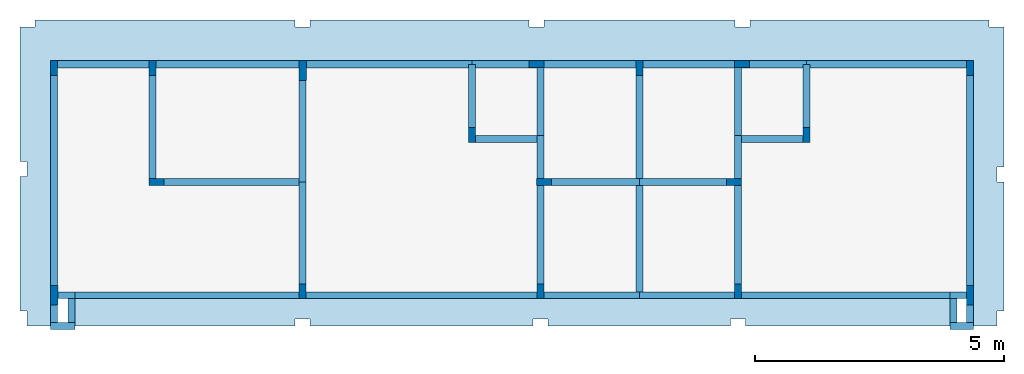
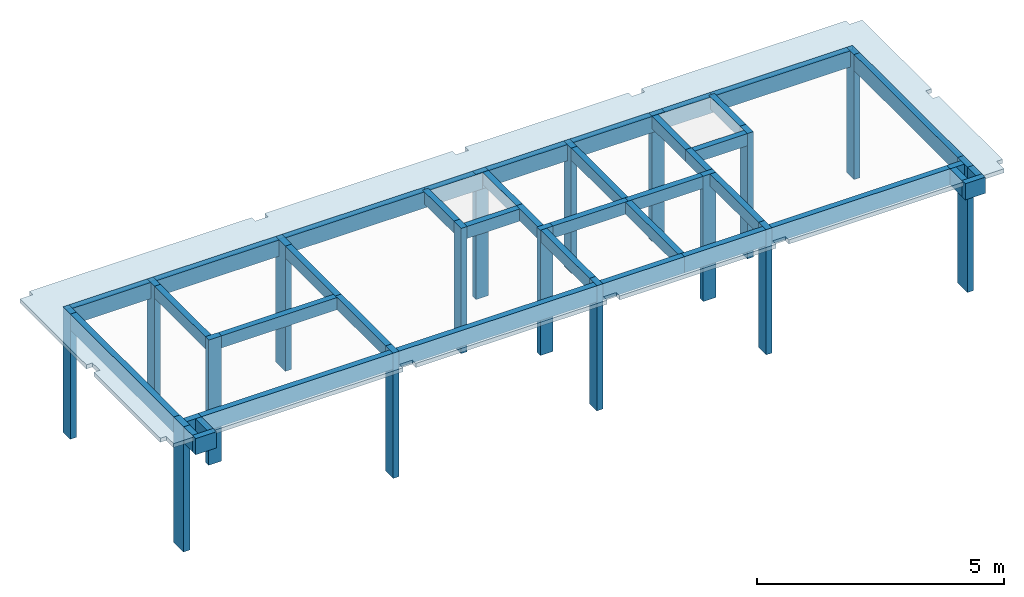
# One storey, part 1 of 4: 41 beams, 17 columns, 2 slabs.
"""IFC4 building model written with IfcOpenShell, lengths in centimetres."""

from ifc_helpers import new_model, si_unit, derived_unit, frame, origin_with_axes, origin_2d_with_axis, place, context, project, spatial, polyline, rectangle, outline, extrude, material, element, save


model = new_model("IFC4")

# Units and contexts
model_context = context("Model", 3, precision=1e-05, world=origin_with_axes(), identifier="Body")
ifc_project = project(units=[si_unit("LENGTHUNIT", "METRE", prefix="CENTI"), si_unit("VOLUMEUNIT", "CUBIC_METRE"), si_unit("AREAUNIT", "SQUARE_METRE"), si_unit("POWERUNIT", "WATT"), si_unit("LUMINOUSFLUXUNIT", "LUMEN"), si_unit("ELECTRICCURRENTUNIT", "AMPERE"), si_unit("PRESSUREUNIT", "PASCAL", prefix="KILO"), si_unit("MASSUNIT", "GRAM", prefix="KILO"), si_unit("PLANEANGLEUNIT", "RADIAN"), derived_unit("VOLUMETRICFLOWRATEUNIT", [(si_unit("LENGTHUNIT", "METRE"), 3), (si_unit("TIMEUNIT", "SECOND"), -1)])], contexts=[model_context])

# Site, building, storey
site_placement = place(None, origin_with_axes())
site = spatial("IfcSite", under=ifc_project, at=site_placement)
building_placement = place(site_placement, frame((0.0, 0.0, 2.0)))
building = spatial("IfcBuilding", under=site, at=building_placement)
placement = place(building_placement, origin_with_axes())
storey_placement = place(placement, frame((0.0, 0.0, 310.0), z_axis=(0.0, 0.0, 1.0), x_axis=(1.0, 0.0, 0.0)))
storey = spatial("IfcBuildingStorey", under=building, at=storey_placement, Name="RESPALDO", CompositionType="ELEMENT", Elevation=312.0)

# Columns
ifc_material = material(Name="Concreto")
column_1_placement = place(storey_placement, frame((8.5, 523.64, 0.0), z_axis=(0.0, 0.0, 1.0), x_axis=(1.0, 0.0, 0.0)))
element("IfcColumn", 1, at=column_1_placement, inside=storey, material=ifc_material, Name="P1", context=model_context, shape_type="SolidModel", body=[
    extrude(rectangle(XDim=14.0, YDim=30.0, at=origin_2d_with_axis()), origin_with_axes(), (0.0, 0.0, -1.0), 310.0),
])
for number, where, z_axis, x_axis, name in (
    (2, (213.55, 295.57, 0.0), (0.0, 0.0, 1.0), (1.0, 0.0, 0.0), "P10"),
    (3, (989.78, 295.58, 0.0), (0.0, 0.0, 1.0), (1.0, 0.0, 0.0), "P11"),
    (4, (1371.38, 295.58, 0.0), (0.0, 0.0, 1.0), (1.0, 0.0, 0.0), "P12"),
):
    element("IfcColumn", number, at=place(storey_placement, frame(where, z_axis=z_axis, x_axis=x_axis)), inside=storey, material=ifc_material, Name=name, context=model_context, shape_type="SolidModel", body=[
        extrude(rectangle(XDim=14.0, YDim=30.0, at=origin_2d_with_axis()), frame((0.0, 0.0, 0.0), z_axis=(0.0, 0.0, 1.0), x_axis=(0.0, -1.0, 0.0)), (0.0, 0.0, -1.0), 310.0),
    ])
column_2_placement = place(storey_placement, frame((8.5, 68.52, 0.0), z_axis=(0.0, 0.0, 1.0), x_axis=(1.0, 0.0, 0.0)))
element("IfcColumn", 5, at=column_2_placement, inside=storey, material=ifc_material, Name="P13", context=model_context, shape_type="SolidModel", body=[
    extrude(rectangle(XDim=15.0, YDim=40.0, at=origin_2d_with_axis()), frame((0.0, 0.0, 0.0), z_axis=(0.0, 0.0, 1.0), x_axis=(-1.0, 0.0, 0.0)), (0.0, 0.0, -1.0), 310.0),
])
column_3_placement = place(storey_placement, frame((506.17, 76.52, 0.0), z_axis=(0.0, 0.0, 1.0), x_axis=(1.0, 0.0, 0.0)))
element("IfcColumn", 6, at=column_3_placement, inside=storey, material=ifc_material, Name="P14", context=model_context, shape_type="SolidModel", body=[
    extrude(rectangle(XDim=14.0, YDim=30.0, at=origin_2d_with_axis()), frame((0.0, 0.0, 0.0), z_axis=(0.0, 0.0, 1.0), x_axis=(-1.0, 0.0, 0.0)), (0.0, 0.0, -1.0), 310.0),
])
column_4_placement = place(storey_placement, frame((983.28, 76.52, 0.0), z_axis=(0.0, 0.0, 1.0), x_axis=(1.0, 0.0, 0.0)))
element("IfcColumn", 7, at=column_4_placement, inside=storey, material=ifc_material, Name="P15", context=model_context, shape_type="SolidModel", body=[
    extrude(rectangle(XDim=14.0, YDim=30.0, at=origin_2d_with_axis()), origin_with_axes(), (0.0, 0.0, -1.0), 310.0),
])
column_5_placement = place(storey_placement, frame((1379.38, 76.52, 0.0), z_axis=(0.0, 0.0, 1.0), x_axis=(1.0, 0.0, 0.0)))
element("IfcColumn", 8, at=column_5_placement, inside=storey, material=ifc_material, Name="P16", context=model_context, shape_type="SolidModel", body=[
    extrude(rectangle(XDim=14.0, YDim=30.0, at=origin_2d_with_axis()), frame((0.0, 0.0, 0.0), z_axis=(0.0, 0.0, 1.0), x_axis=(-1.0, 0.0, 0.0)), (0.0, 0.0, -1.0), 310.0),
])
column_6_placement = place(storey_placement, frame((1843.5, 68.52, 0.0), z_axis=(0.0, 0.0, 1.0), x_axis=(1.0, 0.0, 0.0)))
element("IfcColumn", 9, at=column_6_placement, inside=storey, material=ifc_material, Name="P17", context=model_context, shape_type="SolidModel", body=[
    extrude(rectangle(XDim=14.0, YDim=40.0, at=origin_2d_with_axis()), frame((0.0, 0.0, 0.0), z_axis=(0.0, 0.0, 1.0), x_axis=(-1.0, 0.0, 0.0)), (0.0, 0.0, -1.0), 310.0),
])
column_7_placement = place(storey_placement, frame((205.55, 523.63, 0.0), z_axis=(0.0, 0.0, 1.0), x_axis=(1.0, 0.0, 0.0)))
element("IfcColumn", 10, at=column_7_placement, inside=storey, material=ifc_material, Name="P2", context=model_context, shape_type="SolidModel", body=[
    extrude(rectangle(XDim=14.0, YDim=30.0, at=origin_2d_with_axis()), frame((0.0, 0.0, 0.0), z_axis=(0.0, 0.0, 1.0), x_axis=(-1.0, 0.0, 0.0)), (0.0, 0.0, -1.0), 310.0),
])
column_8_placement = place(storey_placement, frame((506.65, 518.63, 0.0), z_axis=(0.0, 0.0, 1.0), x_axis=(1.0, 0.0, 0.0)))
element("IfcColumn", 11, at=column_8_placement, inside=storey, material=ifc_material, Name="P3", context=model_context, shape_type="SolidModel", body=[
    extrude(rectangle(XDim=15.0, YDim=40.0, at=origin_2d_with_axis()), origin_with_axes(), (0.0, 0.0, -1.0), 310.0),
])
column_9_placement = place(storey_placement, frame((975.28, 531.64, 0.0), z_axis=(0.0, 0.0, 1.0), x_axis=(1.0, 0.0, 0.0)))
element("IfcColumn", 12, at=column_9_placement, inside=storey, material=ifc_material, Name="P4", context=model_context, shape_type="SolidModel", body=[
    extrude(rectangle(XDim=14.0, YDim=30.0, at=origin_2d_with_axis()), frame((0.0, 0.0, 0.0), z_axis=(0.0, 0.0, 1.0), x_axis=(0.0, -1.0, 0.0)), (0.0, 0.0, -1.0), 310.0),
])
column_10_placement = place(storey_placement, frame((1181.33, 523.64, 0.0), z_axis=(0.0, 0.0, 1.0), x_axis=(1.0, 0.0, 0.0)))
element("IfcColumn", 13, at=column_10_placement, inside=storey, material=ifc_material, Name="P5", context=model_context, shape_type="SolidModel", body=[
    extrude(rectangle(XDim=14.0, YDim=30.0, at=origin_2d_with_axis()), origin_with_axes(), (0.0, 0.0, -1.0), 310.0),
])
column_11_placement = place(storey_placement, frame((1387.38, 531.64, 0.0), z_axis=(0.0, 0.0, 1.0), x_axis=(1.0, 0.0, 0.0)))
element("IfcColumn", 14, at=column_11_placement, inside=storey, material=ifc_material, Name="P6", context=model_context, shape_type="SolidModel", body=[
    extrude(rectangle(XDim=14.0, YDim=30.0, at=origin_2d_with_axis()), frame((0.0, 0.0, 0.0), z_axis=(0.0, 0.0, 1.0), x_axis=(0.0, -1.0, 0.0)), (0.0, 0.0, -1.0), 310.0),
])
for number, where, z_axis, x_axis, name in (
    (15, (1843.5, 523.64, 0.0), (0.0, 0.0, 1.0), (1.0, 0.0, 0.0), "P7"),
    (16, (846.24, 389.59, 0.0), (0.0, 0.0, 1.0), (1.0, 0.0, 0.0), "P8"),
):
    element("IfcColumn", number, at=place(storey_placement, frame(where, z_axis=z_axis, x_axis=x_axis)), inside=storey, material=ifc_material, Name=name, context=model_context, shape_type="SolidModel", body=[
        extrude(rectangle(XDim=14.0, YDim=30.0, at=origin_2d_with_axis()), origin_with_axes(), (0.0, 0.0, -1.0), 310.0),
    ])
column_12_placement = place(storey_placement, frame((1516.42, 389.59, 0.0), z_axis=(0.0, 0.0, 1.0), x_axis=(1.0, 0.0, 0.0)))
element("IfcColumn", 17, at=column_12_placement, inside=storey, material=ifc_material, Name="P9", context=model_context, shape_type="SolidModel", body=[
    extrude(rectangle(XDim=14.0, YDim=30.0, at=origin_2d_with_axis()), frame((0.0, 0.0, 0.0), z_axis=(0.0, 0.0, 1.0), x_axis=(-1.0, 0.0, 0.0)), (0.0, 0.0, -1.0), 310.0),
])

# Beams
for number, where, z_axis, x_axis, name in (
    (18, (1287.855, 531.13, 0.0), (0.0, 0.0, 1.0), (1.0, 0.0, 0.0), "V1"),
    (19, (1074.805, 531.13, 0.0), (0.0, 0.0, 1.0), (1.0, 0.0, 0.0), "V1"),
):
    element("IfcBeam", number, at=place(storey_placement, frame(where, z_axis=z_axis, x_axis=x_axis)), inside=storey, material=ifc_material, Name=name, context=model_context, shape_type="SolidModel", body=[
        extrude(rectangle(XDim=15.0, YDim=40.0, at=origin_2d_with_axis()), frame((-99.525, 0.0, -20.0), z_axis=(1.0, 0.0, 0.0), x_axis=(0.0, 1.0, 0.0)), (0.0, 0.0, 1.0), 199.05),
    ])
beam_1_placement = place(storey_placement, frame((107.025, 531.13, 0.0), z_axis=(0.0, 0.0, 1.0), x_axis=(1.0, 0.0, 0.0)))
element("IfcBeam", 20, at=beam_1_placement, inside=storey, material=ifc_material, Name="V1", context=model_context, shape_type="SolidModel", body=[
    extrude(rectangle(XDim=15.0, YDim=40.0, at=origin_2d_with_axis()), frame((-91.525, 0.0, -20.0), z_axis=(1.0, 0.0, 0.0), x_axis=(0.0, 1.0, 0.0)), (0.0, 0.0, 1.0), 183.05),
])
beam_2_placement = place(storey_placement, frame((355.85, 531.13, 0.0), z_axis=(0.0, 0.0, 1.0), x_axis=(1.0, 0.0, 0.0)))
element("IfcBeam", 21, at=beam_2_placement, inside=storey, material=ifc_material, Name="V1", context=model_context, shape_type="SolidModel", body=[
    extrude(rectangle(XDim=15.0, YDim=40.0, at=origin_2d_with_axis()), frame((-143.3, 0.0, -20.0), z_axis=(1.0, 0.0, 0.0), x_axis=(0.0, 1.0, 0.0)), (0.0, 0.0, 1.0), 286.6),
])
beam_3_placement = place(storey_placement, frame((680.195, 531.13, 0.0), z_axis=(0.0, 0.0, 1.0), x_axis=(1.0, 0.0, 0.0)))
element("IfcBeam", 22, at=beam_3_placement, inside=storey, material=ifc_material, Name="V1", context=model_context, shape_type="SolidModel", body=[
    extrude(rectangle(XDim=15.0, YDim=40.0, at=origin_2d_with_axis()), frame((-166.045, 0.0, -20.0), z_axis=(1.0, 0.0, 0.0), x_axis=(0.0, 1.0, 0.0)), (0.0, 0.0, 1.0), 332.09),
])
beam_4_placement = place(storey_placement, frame((1451.9, 531.13, 0.0), z_axis=(0.0, 0.0, 1.0), x_axis=(1.0, 0.0, 0.0)))
element("IfcBeam", 23, at=beam_4_placement, inside=storey, material=ifc_material, Name="V1", context=model_context, shape_type="SolidModel", body=[
    extrude(rectangle(XDim=15.0, YDim=40.0, at=origin_2d_with_axis()), frame((-64.52, 0.0, -20.0), z_axis=(1.0, 0.0, 0.0), x_axis=(0.0, 1.0, 0.0)), (0.0, 0.0, 1.0), 129.04),
])
beam_5_placement = place(storey_placement, frame((1676.46, 531.13, 0.0), z_axis=(0.0, 0.0, 1.0), x_axis=(1.0, 0.0, 0.0)))
element("IfcBeam", 24, at=beam_5_placement, inside=storey, material=ifc_material, Name="V1", context=model_context, shape_type="SolidModel", body=[
    extrude(rectangle(XDim=15.0, YDim=40.0, at=origin_2d_with_axis()), frame((-160.04, 0.0, -20.0), z_axis=(1.0, 0.0, 0.0), x_axis=(0.0, 1.0, 0.0)), (0.0, 0.0, 1.0), 320.08),
])
beam_6_placement = place(storey_placement, frame((910.76, 531.13, 0.0), z_axis=(0.0, 0.0, 1.0), x_axis=(1.0, 0.0, 0.0)))
element("IfcBeam", 25, at=beam_6_placement, inside=storey, material=ifc_material, Name="V1", context=model_context, shape_type="SolidModel", body=[
    extrude(rectangle(XDim=15.0, YDim=40.0, at=origin_2d_with_axis()), frame((-64.52, 0.0, -20.0), z_axis=(1.0, 0.0, 0.0), x_axis=(0.0, 1.0, 0.0)), (0.0, 0.0, 1.0), 129.04),
])
beam_7_placement = place(storey_placement, frame((983.28, 453.115, 0.0), z_axis=(0.0, 0.0, 1.0), x_axis=(1.0, 0.0, 0.0)))
element("IfcBeam", 26, at=beam_7_placement, inside=storey, material=ifc_material, Name="V10", context=model_context, shape_type="SolidModel", body=[
    extrude(rectangle(XDim=14.0, YDim=30.0, at=origin_2d_with_axis()), frame((0.0, -71.525, -15.0), z_axis=(0.0, 1.0, 0.0), x_axis=(1.0, 0.0, 0.0)), (0.0, 0.0, 1.0), 143.05),
])
beam_8_placement = place(storey_placement, frame((983.28, 190.05, 0.0), z_axis=(0.0, 0.0, 1.0), x_axis=(1.0, 0.0, 0.0)))
element("IfcBeam", 27, at=beam_8_placement, inside=storey, material=ifc_material, Name="V10", context=model_context, shape_type="SolidModel", body=[
    extrude(rectangle(XDim=14.0, YDim=30.0, at=origin_2d_with_axis()), frame((0.0, -98.53, -15.0), z_axis=(0.0, 1.0, 0.0), x_axis=(1.0, 0.0, 0.0)), (0.0, 0.0, 1.0), 197.06),
])
beam_9_placement = place(storey_placement, frame((983.28, 345.585, 0.0), z_axis=(0.0, 0.0, 1.0), x_axis=(1.0, 0.0, 0.0)))
element("IfcBeam", 28, at=beam_9_placement, inside=storey, material=ifc_material, Name="V10", context=model_context, shape_type="SolidModel", body=[
    extrude(rectangle(XDim=14.0, YDim=30.0, at=origin_2d_with_axis()), frame((0.0, -43.005, -15.0), z_axis=(0.0, 1.0, 0.0), x_axis=(1.0, 0.0, 0.0)), (0.0, 0.0, 1.0), 86.01),
])
beam_10_placement = place(storey_placement, frame((1181.33, 182.05, 0.0), z_axis=(0.0, 0.0, 1.0), x_axis=(1.0, 0.0, 0.0)))
element("IfcBeam", 29, at=beam_10_placement, inside=storey, material=ifc_material, Name="V11", context=model_context, shape_type="SolidModel", body=[
    extrude(rectangle(XDim=14.0, YDim=30.0, at=origin_2d_with_axis()), frame((0.0, -113.53, -15.0), z_axis=(0.0, 1.0, 0.0), x_axis=(1.0, 0.0, 0.0)), (0.0, 0.0, 1.0), 227.06),
])
beam_11_placement = place(storey_placement, frame((1181.33, 402.11, 0.0), z_axis=(0.0, 0.0, 1.0), x_axis=(1.0, 0.0, 0.0)))
element("IfcBeam", 30, at=beam_11_placement, inside=storey, material=ifc_material, Name="V11", context=model_context, shape_type="SolidModel", body=[
    extrude(rectangle(XDim=14.0, YDim=30.0, at=origin_2d_with_axis()), frame((0.0, -106.53, -15.0), z_axis=(0.0, 1.0, 0.0), x_axis=(1.0, 0.0, 0.0)), (0.0, 0.0, 1.0), 213.06),
])
beam_12_placement = place(storey_placement, frame((1379.38, 453.115, 0.0), z_axis=(0.0, 0.0, 1.0), x_axis=(1.0, 0.0, 0.0)))
element("IfcBeam", 31, at=beam_12_placement, inside=storey, material=ifc_material, Name="V12", context=model_context, shape_type="SolidModel", body=[
    extrude(rectangle(XDim=14.0, YDim=30.0, at=origin_2d_with_axis()), frame((0.0, -71.525, -15.0), z_axis=(0.0, 1.0, 0.0), x_axis=(1.0, 0.0, 0.0)), (0.0, 0.0, 1.0), 143.05),
])
beam_13_placement = place(storey_placement, frame((1379.38, 190.05, 0.0), z_axis=(0.0, 0.0, 1.0), x_axis=(1.0, 0.0, 0.0)))
element("IfcBeam", 32, at=beam_13_placement, inside=storey, material=ifc_material, Name="V12", context=model_context, shape_type="SolidModel", body=[
    extrude(rectangle(XDim=14.0, YDim=30.0, at=origin_2d_with_axis()), frame((0.0, -98.53, -15.0), z_axis=(0.0, 1.0, 0.0), x_axis=(1.0, 0.0, 0.0)), (0.0, 0.0, 1.0), 197.06),
])
beam_14_placement = place(storey_placement, frame((1379.38, 345.585, 0.0), z_axis=(0.0, 0.0, 1.0), x_axis=(1.0, 0.0, 0.0)))
element("IfcBeam", 33, at=beam_14_placement, inside=storey, material=ifc_material, Name="V12", context=model_context, shape_type="SolidModel", body=[
    extrude(rectangle(XDim=14.0, YDim=30.0, at=origin_2d_with_axis()), frame((0.0, -43.005, -15.0), z_axis=(0.0, 1.0, 0.0), x_axis=(1.0, 0.0, 0.0)), (0.0, 0.0, 1.0), 86.01),
])
beam_15_placement = place(storey_placement, frame((1516.42, 467.86, 0.0), z_axis=(0.0, 0.0, 1.0), x_axis=(1.0, 0.0, 0.0)))
element("IfcBeam", 34, at=beam_15_placement, inside=storey, material=ifc_material, Name="V13", context=model_context, shape_type="SolidModel", body=[
    extrude(rectangle(XDim=14.0, YDim=30.0, at=origin_2d_with_axis()), frame((0.0, -63.27, -15.0), z_axis=(0.0, 1.0, 0.0), x_axis=(1.0, 0.0, 0.0)), (0.0, 0.0, 1.0), 126.54),
])
beam_16_placement = place(storey_placement, frame((43.01, 37.76, 0.0), z_axis=(0.0, 0.0, 1.0), x_axis=(1.0, 0.0, 0.0)))
element("IfcBeam", 35, at=beam_16_placement, inside=storey, material=ifc_material, Name="V14", context=model_context, shape_type="SolidModel", body=[
    extrude(rectangle(XDim=14.0, YDim=40.0, at=origin_2d_with_axis()), frame((0.0, -23.76, -20.0), z_axis=(0.0, 1.0, 0.0), x_axis=(1.0, 0.0, 0.0)), (0.0, 0.0, 1.0), 47.52),
])
beam_17_placement = place(storey_placement, frame((25.755, 7.0, 0.0), z_axis=(0.0, 0.0, 1.0), x_axis=(1.0, 0.0, 0.0)))
element("IfcBeam", 36, at=beam_17_placement, inside=storey, material=ifc_material, Name="V14", context=model_context, shape_type="SolidModel", body=[
    extrude(rectangle(XDim=14.0, YDim=40.0, at=origin_2d_with_axis()), frame((-24.255, 0.0, -20.0), z_axis=(1.0, 0.0, 0.0), x_axis=(0.0, 1.0, 0.0)), (0.0, 0.0, 1.0), 48.51),
])
beam_18_placement = place(storey_placement, frame((8.5, 31.26, 0.0), z_axis=(0.0, 0.0, 1.0), x_axis=(1.0, 0.0, 0.0)))
element("IfcBeam", 37, at=beam_18_placement, inside=storey, material=ifc_material, Name="V14", context=model_context, shape_type="SolidModel", body=[
    extrude(rectangle(XDim=14.0, YDim=40.0, at=origin_2d_with_axis()), frame((0.0, 17.26, -20.0), z_axis=(0.0, -1.0, 0.0), x_axis=(-1.0, 0.0, 0.0)), (0.0, 0.0, 1.0), 34.52),
])
beam_19_placement = place(storey_placement, frame((8.5, 298.58, 0.0), z_axis=(0.0, 0.0, 1.0), x_axis=(1.0, 0.0, 0.0)))
element("IfcBeam", 38, at=beam_19_placement, inside=storey, material=ifc_material, Name="V14", context=model_context, shape_type="SolidModel", body=[
    extrude(rectangle(XDim=14.0, YDim=40.0, at=origin_2d_with_axis()), frame((0.0, 210.06, -20.0), z_axis=(0.0, -1.0, 0.0), x_axis=(-1.0, 0.0, 0.0)), (0.0, 0.0, 1.0), 420.12),
])
beam_20_placement = place(storey_placement, frame((1843.5, 298.58, 0.0), z_axis=(0.0, 0.0, 1.0), x_axis=(1.0, 0.0, 0.0)))
element("IfcBeam", 39, at=beam_20_placement, inside=storey, material=ifc_material, Name="V15", context=model_context, shape_type="SolidModel", body=[
    extrude(rectangle(XDim=14.0, YDim=40.0, at=origin_2d_with_axis()), frame((0.0, -210.06, -20.0), z_axis=(0.0, 1.0, 0.0), x_axis=(1.0, 0.0, 0.0)), (0.0, 0.0, 1.0), 420.12),
])
beam_21_placement = place(storey_placement, frame((1810.49, 37.76, 0.0), z_axis=(0.0, 0.0, 1.0), x_axis=(1.0, 0.0, 0.0)))
element("IfcBeam", 40, at=beam_21_placement, inside=storey, material=ifc_material, Name="V15", context=model_context, shape_type="SolidModel", body=[
    extrude(rectangle(XDim=14.0, YDim=40.0, at=origin_2d_with_axis()), frame((0.0, 23.76, -20.0), z_axis=(0.0, -1.0, 0.0), x_axis=(1.0, 0.0, 0.0)), (0.0, 0.0, 1.0), 47.52),
])
beam_22_placement = place(storey_placement, frame((1826.995, 7.0, 0.0), z_axis=(0.0, 0.0, 1.0), x_axis=(1.0, 0.0, 0.0)))
element("IfcBeam", 41, at=beam_22_placement, inside=storey, material=ifc_material, Name="V15", context=model_context, shape_type="SolidModel", body=[
    extrude(rectangle(XDim=14.0, YDim=40.0, at=origin_2d_with_axis()), frame((-23.505, 0.0, -20.0), z_axis=(1.0, 0.0, 0.0), x_axis=(0.0, 1.0, 0.0)), (0.0, 0.0, 1.0), 47.01),
])
beam_23_placement = place(storey_placement, frame((1843.5, 31.26, 0.0), z_axis=(0.0, 0.0, 1.0), x_axis=(1.0, 0.0, 0.0)))
element("IfcBeam", 42, at=beam_23_placement, inside=storey, material=ifc_material, Name="V15", context=model_context, shape_type="SolidModel", body=[
    extrude(rectangle(XDim=14.0, YDim=40.0, at=origin_2d_with_axis()), frame((0.0, -17.26, -20.0), z_axis=(0.0, 1.0, 0.0), x_axis=(1.0, 0.0, 0.0)), (0.0, 0.0, 1.0), 34.52),
])
for number, where, z_axis, x_axis, name in (
    (43, (914.76, 381.59, 0.0), (0.0, 0.0, 1.0), (1.0, 0.0, 0.0), "V2"),
    (44, (1447.9, 381.59, 0.0), (0.0, 0.0, 1.0), (1.0, 0.0, 0.0), "V3"),
):
    element("IfcBeam", number, at=place(storey_placement, frame(where, z_axis=z_axis, x_axis=x_axis)), inside=storey, material=ifc_material, Name=name, context=model_context, shape_type="SolidModel", body=[
        extrude(rectangle(XDim=14.0, YDim=30.0, at=origin_2d_with_axis()), frame((-61.52, 0.0, -15.0), z_axis=(1.0, 0.0, 0.0), x_axis=(0.0, 1.0, 0.0)), (0.0, 0.0, 1.0), 123.04),
    ])
beam_24_placement = place(storey_placement, frame((367.35, 295.57, 0.0), z_axis=(0.0, 0.0, 1.0), x_axis=(1.0, 0.0, 0.0)))
element("IfcBeam", 45, at=beam_24_placement, inside=storey, material=ifc_material, Name="V4", context=model_context, shape_type="SolidModel", body=[
    extrude(rectangle(XDim=14.0, YDim=30.0, at=origin_2d_with_axis()), frame((-138.8, 0.0, -15.0), z_axis=(1.0, 0.0, 0.0), x_axis=(0.0, 1.0, 0.0)), (0.0, 0.0, 1.0), 277.6),
])
beam_25_placement = place(storey_placement, frame((1093.055, 295.58, 0.0), z_axis=(0.0, 0.0, 1.0), x_axis=(1.0, 0.0, 0.0)))
element("IfcBeam", 46, at=beam_25_placement, inside=storey, material=ifc_material, Name="V5", context=model_context, shape_type="SolidModel", body=[
    extrude(rectangle(XDim=14.0, YDim=30.0, at=origin_2d_with_axis()), frame((-88.275, 0.0, -15.0), z_axis=(1.0, 0.0, 0.0), x_axis=(0.0, 1.0, 0.0)), (0.0, 0.0, 1.0), 176.55),
])
beam_26_placement = place(storey_placement, frame((1268.855, 295.58, 0.0), z_axis=(0.0, 0.0, 1.0), x_axis=(1.0, 0.0, 0.0)))
element("IfcBeam", 47, at=beam_26_placement, inside=storey, material=ifc_material, Name="V5", context=model_context, shape_type="SolidModel", body=[
    extrude(rectangle(XDim=14.0, YDim=30.0, at=origin_2d_with_axis()), frame((-87.525, 0.0, -15.0), z_axis=(1.0, 0.0, 0.0), x_axis=(0.0, 1.0, 0.0)), (0.0, 0.0, 1.0), 175.05),
])
beam_27_placement = place(storey_placement, frame((271.09, 68.52, 0.0), z_axis=(0.0, 0.0, 1.0), x_axis=(1.0, 0.0, 0.0)))
element("IfcBeam", 48, at=beam_27_placement, inside=storey, material=ifc_material, Name="V6", context=model_context, shape_type="SolidModel", body=[
    extrude(rectangle(XDim=14.0, YDim=40.0, at=origin_2d_with_axis()), frame((-228.08, 0.0, -20.0), z_axis=(1.0, 0.0, 0.0), x_axis=(0.0, 1.0, 0.0)), (0.0, 0.0, 1.0), 456.16),
])
beam_28_placement = place(storey_placement, frame((33.005, 68.52, 0.0), z_axis=(0.0, 0.0, 1.0), x_axis=(1.0, 0.0, 0.0)))
element("IfcBeam", 49, at=beam_28_placement, inside=storey, material=ifc_material, Name="V6", context=model_context, shape_type="SolidModel", body=[
    extrude(rectangle(XDim=14.0, YDim=40.0, at=origin_2d_with_axis()), frame((-17.005, 0.0, -20.0), z_axis=(1.0, 0.0, 0.0), x_axis=(0.0, 1.0, 0.0)), (0.0, 0.0, 1.0), 34.01),
])
beam_29_placement = place(storey_placement, frame((744.725, 68.52, 0.0), z_axis=(0.0, 0.0, 1.0), x_axis=(1.0, 0.0, 0.0)))
element("IfcBeam", 50, at=beam_29_placement, inside=storey, material=ifc_material, Name="V6", context=model_context, shape_type="SolidModel", body=[
    extrude(rectangle(XDim=14.0, YDim=40.0, at=origin_2d_with_axis()), frame((-231.555, 0.0, -20.0), z_axis=(1.0, 0.0, 0.0), x_axis=(0.0, 1.0, 0.0)), (0.0, 0.0, 1.0), 463.11),
])
for number, where, z_axis, x_axis, name in (
    (51, (1085.805, 68.52, 0.0), (0.0, 0.0, 1.0), (1.0, 0.0, 0.0), "V6"),
    (52, (1276.855, 68.52, 0.0), (0.0, 0.0, 1.0), (1.0, 0.0, 0.0), "V6"),
):
    element("IfcBeam", number, at=place(storey_placement, frame(where, z_axis=z_axis, x_axis=x_axis)), inside=storey, material=ifc_material, Name=name, context=model_context, shape_type="SolidModel", body=[
        extrude(rectangle(XDim=14.0, YDim=40.0, at=origin_2d_with_axis()), frame((-95.525, 0.0, -20.0), z_axis=(1.0, 0.0, 0.0), x_axis=(0.0, 1.0, 0.0)), (0.0, 0.0, 1.0), 191.05),
    ])
beam_30_placement = place(storey_placement, frame((1598.435, 68.52, 0.0), z_axis=(0.0, 0.0, 1.0), x_axis=(1.0, 0.0, 0.0)))
element("IfcBeam", 53, at=beam_30_placement, inside=storey, material=ifc_material, Name="V6", context=model_context, shape_type="SolidModel", body=[
    extrude(rectangle(XDim=14.0, YDim=40.0, at=origin_2d_with_axis()), frame((-212.055, 0.0, -20.0), z_axis=(1.0, 0.0, 0.0), x_axis=(0.0, 1.0, 0.0)), (0.0, 0.0, 1.0), 424.11),
])
beam_31_placement = place(storey_placement, frame((1819.995, 68.52, 0.0), z_axis=(0.0, 0.0, 1.0), x_axis=(1.0, 0.0, 0.0)))
element("IfcBeam", 54, at=beam_31_placement, inside=storey, material=ifc_material, Name="V6", context=model_context, shape_type="SolidModel", body=[
    extrude(rectangle(XDim=14.0, YDim=40.0, at=origin_2d_with_axis()), frame((-16.505, 0.0, -20.0), z_axis=(1.0, 0.0, 0.0), x_axis=(0.0, 1.0, 0.0)), (0.0, 0.0, 1.0), 33.01),
])
beam_32_placement = place(storey_placement, frame((205.55, 405.6, 0.0), z_axis=(0.0, 0.0, 1.0), x_axis=(1.0, 0.0, 0.0)))
element("IfcBeam", 55, at=beam_32_placement, inside=storey, material=ifc_material, Name="V7", context=model_context, shape_type="SolidModel", body=[
    extrude(rectangle(XDim=14.0, YDim=30.0, at=origin_2d_with_axis()), frame((0.0, -103.03, -15.0), z_axis=(0.0, 1.0, 0.0), x_axis=(1.0, 0.0, 0.0)), (0.0, 0.0, 1.0), 206.06),
])
beam_33_placement = place(storey_placement, frame((506.15, 397.1, 0.0), z_axis=(0.0, 0.0, 1.0), x_axis=(1.0, 0.0, 0.0)))
element("IfcBeam", 56, at=beam_33_placement, inside=storey, material=ifc_material, Name="V8", context=model_context, shape_type="SolidModel", body=[
    extrude(rectangle(XDim=14.0, YDim=30.0, at=origin_2d_with_axis()), frame((0.0, -101.53, -15.0), z_axis=(0.0, 1.0, 0.0), x_axis=(1.0, 0.0, 0.0)), (0.0, 0.0, 1.0), 203.06),
])
beam_34_placement = place(storey_placement, frame((506.15, 193.545, 0.0), z_axis=(0.0, 0.0, 1.0), x_axis=(1.0, 0.0, 0.0)))
element("IfcBeam", 57, at=beam_34_placement, inside=storey, material=ifc_material, Name="V8", context=model_context, shape_type="SolidModel", body=[
    extrude(rectangle(XDim=14.0, YDim=30.0, at=origin_2d_with_axis()), frame((0.0, -102.025, -15.0), z_axis=(0.0, 1.0, 0.0), x_axis=(1.0, 0.0, 0.0)), (0.0, 0.0, 1.0), 204.05),
])
beam_35_placement = place(storey_placement, frame((846.24, 467.86, 0.0), z_axis=(0.0, 0.0, 1.0), x_axis=(1.0, 0.0, 0.0)))
element("IfcBeam", 58, at=beam_35_placement, inside=storey, material=ifc_material, Name="V9", context=model_context, shape_type="SolidModel", body=[
    extrude(rectangle(XDim=14.0, YDim=30.0, at=origin_2d_with_axis()), frame((0.0, -63.27, -15.0), z_axis=(0.0, 1.0, 0.0), x_axis=(1.0, 0.0, 0.0)), (0.0, 0.0, 1.0), 126.54),
])

# Slabs
slab_1_placement = place(storey_placement, frame((926.0, 313.5795, 0.0), z_axis=(0.0, 0.0, 1.0), x_axis=(1.0, 0.0, 0.0)))
element("IfcSlab", 59, at=slab_1_placement, inside=storey, material=ifc_material, Name="L1", PredefinedType="FLOOR", context=model_context, shape_type="SolidModel", body=[
    extrude(outline(polyline([(-924.5, -265.06), (-925.0, -265.06), (-925.0, -225.06), (-924.5, -225.06), (-924.5, 225.06), (-727.45, 225.05), (-79.759, 225.05), (34.279, 225.06), (476.38, 225.06), (590.42, 225.05), (924.5, 225.06), (924.5, -306.58), (972.02, -306.58), (972.02, -276.58), (986.02, -276.58), (986.02, -18.5), (972.02, -18.5), (972.02, 11.499), (986.02, 11.499), (986.02, 292.579), (956.02, 292.579), (956.02, 306.579), (476.88, 306.579), (476.88, 292.579), (446.88, 292.579), (446.88, 306.579), (64.279, 306.579), (64.279, 292.579), (34.279, 292.579), (34.279, 306.579), (-404.85, 306.579), (-404.85, 292.579), (-434.85, 292.579), (-434.85, 306.579), (-956.02, 306.579), (-956.02, 292.579), (-986.02, 292.579), (-986.02, 22.999), (-972.02, 22.999), (-972.02, -7.0), (-986.02, -7.0), (-986.02, -276.58), (-972.02, -276.58), (-972.02, -306.58), (-924.5, -306.58), (-924.5, -265.06), (-924.5, -265.06)])), frame((0.0, 0.0005, -10.0), z_axis=(0.0, 0.0, 1.0), x_axis=(1.0, 0.0, 0.0)), (0.0, 0.0, 1.0), 10.0),
])
slab_2_placement = place(storey_placement, frame((926.75, 34.26, 0.0), z_axis=(0.0, 0.0, 1.0), x_axis=(1.0, 0.0, 0.0)))
element("IfcSlab", 60, at=slab_2_placement, inside=storey, material=ifc_material, Name="L12", PredefinedType="FLOOR", context=model_context, shape_type="SolidModel", body=[
    extrude(outline(polyline([(-435.6, -13.26), (-405.6, -13.26), (-405.6, -27.26), (41.529, -27.26), (41.529, -13.26), (71.529, -13.26), (71.529, -27.26), (437.63, -27.26), (437.63, -13.26), (467.63, -13.26), (467.63, -27.26), (876.74, -27.26), (876.74, 27.26), (-876.74, 27.26), (-876.74, -27.26), (-435.6, -27.26), (-435.6, -13.26), (-435.6, -13.26)])), frame((0.0, 0.0, -10.0), z_axis=(0.0, 0.0, 1.0), x_axis=(1.0, 0.0, 0.0)), (0.0, 0.0, 1.0), 10.0),
])

save(model, "model.ifc")
